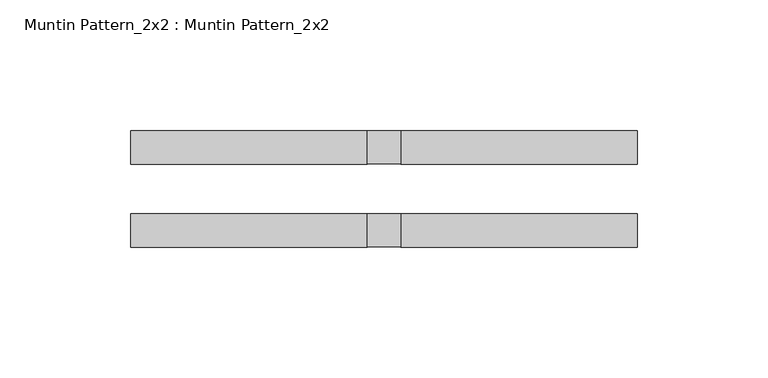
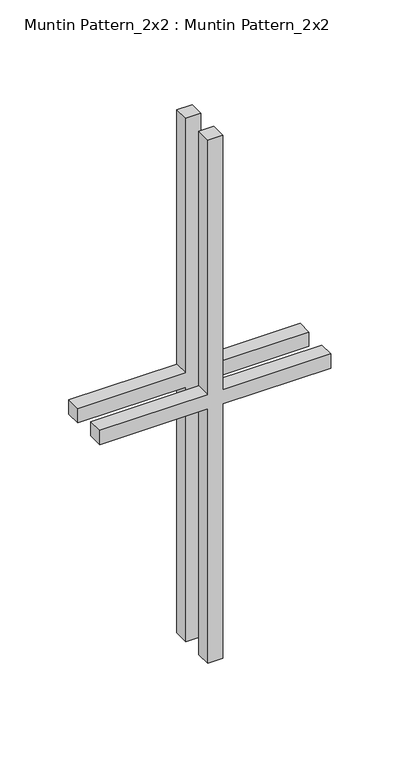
"""IFC4 building model written with IfcOpenShell, lengths in millimetres: proxy geometry, Muntin Pattern_2x2 : Muntin Pattern_2x2."""

from ifc_helpers import new_model, si_unit, frame, origin, place, context, project, spatial, polyline, outline, extrude, source, transform, mapped, element, save


def muntin_pattern_2x2_muntin_pattern_2x2_25a0df6c(model_context):
    return source(origin(), model_context, "Body", "SweptSolid", [
        extrude(outline(polyline([(238.125, -6.35), (238.125, -96.8375), (225.425, -96.8375), (225.425, -6.35), (0.0, -6.35), (0.0, 6.35), (225.425, 6.35), (225.425, 96.8375), (238.125, 96.8375), (238.125, 6.35), (463.55, 6.35), (463.55, -6.35), (238.125, -6.35)])), frame((0.0, 9.525, 0.0), z_axis=(0.0, 1.0, 0.0), x_axis=(0.0, 0.0, 1.0)), (0.0, 0.0, 1.0), 12.7),
        extrude(outline(polyline([(238.125, -6.35), (238.125, -96.8375), (225.425, -96.8375), (225.425, -6.35), (0.0, -6.35), (0.0, 6.35), (225.425, 6.35), (225.425, 96.8375), (238.125, 96.8375), (238.125, 6.35), (463.55, 6.35), (463.55, -6.35), (238.125, -6.35)])), frame((0.0, -22.225, 0.0), z_axis=(0.0, 1.0, 0.0), x_axis=(0.0, 0.0, 1.0)), (0.0, 0.0, 1.0), 12.7),
    ])


if __name__ == "__main__":
    model = new_model("IFC4")
    model_context = context("Model", 3, world=origin())
    ifc_project = project(units=[si_unit("LENGTHUNIT", "METRE", prefix="MILLI")], contexts=[model_context])
    site = spatial("IfcSite", under=ifc_project)
    building = spatial("IfcBuilding", under=site)
    placement = place(None, origin())
    muntin_pattern_2x2_muntin_pattern_2x2_shape = muntin_pattern_2x2_muntin_pattern_2x2_25a0df6c(model_context)
    element("IfcBuildingElementProxy", 1, Name="Muntin Pattern_2x2 : Muntin Pattern_2x2", ObjectType="Muntin Pattern_2x2 : Muntin Pattern_2x2", at=placement, inside=building, context=model_context, shape_type="MappedRepresentation", body=[
        mapped(muntin_pattern_2x2_muntin_pattern_2x2_shape, transform((0.0, 0.0, 0.0), x_axis=(1.0, 0.0, 0.0), y_axis=(0.0, 1.0, 0.0), z_axis=(0.0, 0.0, 1.0))),
    ])
    save(model, "model.ifc")
